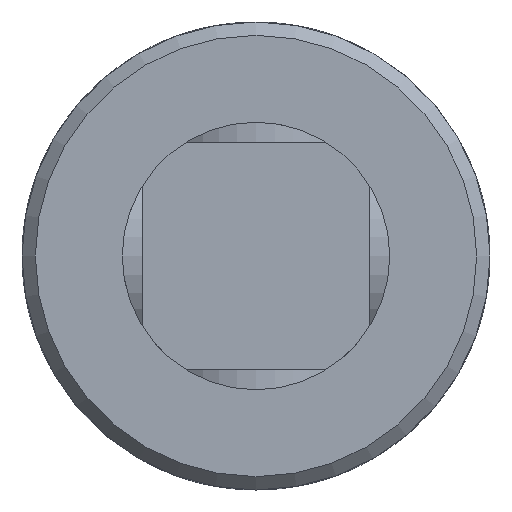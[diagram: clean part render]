
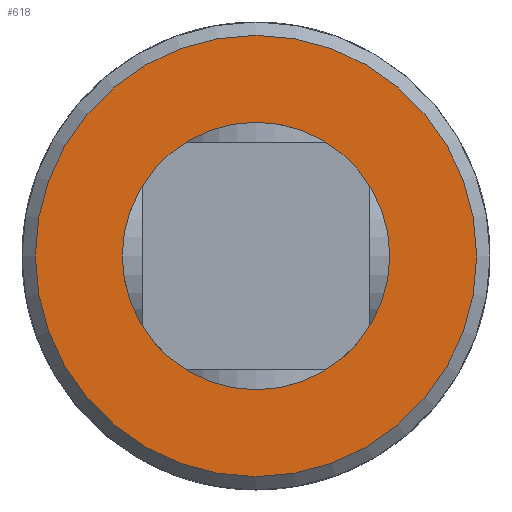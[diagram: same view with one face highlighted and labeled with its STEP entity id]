
A CAD part, front view. The second image highlights one B-rep face of the part: STEP entity #618.
In plain terms, the highlighted planar face has unit normal (0, -1, 0).
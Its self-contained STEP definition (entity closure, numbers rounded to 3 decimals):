
#122=PLANE('',#673);
#147=FACE_BOUND('',#226,.T.);
#172=FACE_OUTER_BOUND('',#225,.T.);
#225=EDGE_LOOP('',(#489));
#226=EDGE_LOOP('',(#490));
#268=CIRCLE('',#671,33.);
#269=CIRCLE('',#674,20.);
#305=VERTEX_POINT('',#952);
#322=VERTEX_POINT('',#1186);
#371=EDGE_CURVE('',#305,#305,#268,.T.);
#388=EDGE_CURVE('',#322,#322,#269,.T.);
#489=ORIENTED_EDGE('',*,*,#371,.F.);
#490=ORIENTED_EDGE('',*,*,#388,.T.);
#618=ADVANCED_FACE('',(#172,#147),#122,.F.);
#671=AXIS2_PLACEMENT_3D('',#953,#785,#786);
#673=AXIS2_PLACEMENT_3D('',#1185,#793,#794);
#674=AXIS2_PLACEMENT_3D('',#1187,#795,#796);
#785=DIRECTION('center_axis',(0.,1.,0.));
#786=DIRECTION('ref_axis',(1.,0.,0.));
#793=DIRECTION('center_axis',(0.,1.,0.));
#794=DIRECTION('ref_axis',(0.,0.,1.));
#795=DIRECTION('center_axis',(0.,1.,0.));
#796=DIRECTION('ref_axis',(-1.,0.,0.));
#952=CARTESIAN_POINT('',(-33.,-100.,0.));
#953=CARTESIAN_POINT('Origin',(0.,-100.,0.));
#1185=CARTESIAN_POINT('Origin',(0.,-100.,0.));
#1186=CARTESIAN_POINT('',(20.,-100.,0.));
#1187=CARTESIAN_POINT('Origin',(0.,-100.,0.));
